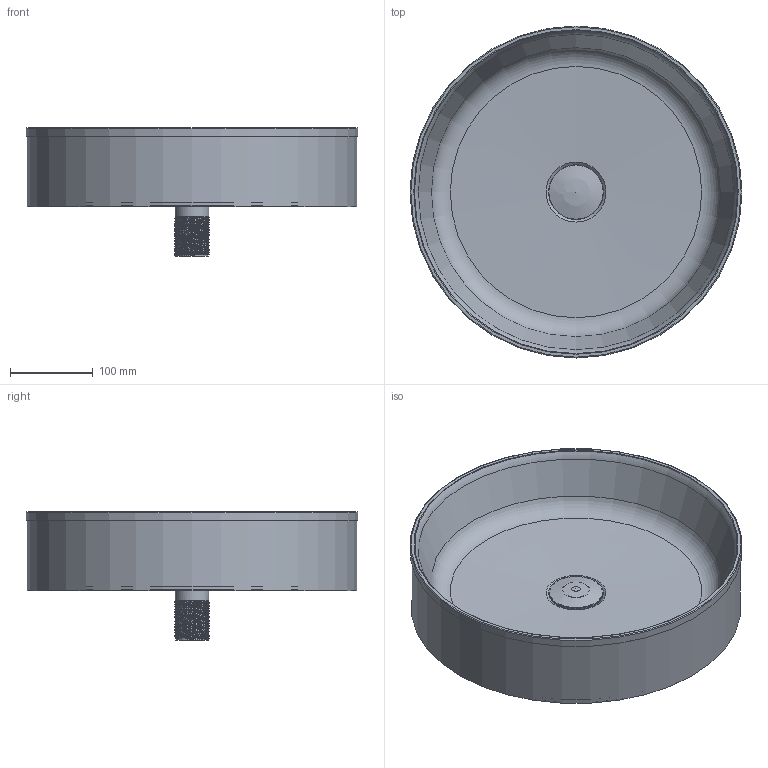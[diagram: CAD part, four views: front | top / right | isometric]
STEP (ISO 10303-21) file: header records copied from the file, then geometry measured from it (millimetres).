
FILE_DESCRIPTION(/* description */ (''),/* implementation_level */ '2;1');
FILE_NAME(/* name */ '400C.stp',/* time_stamp */ '2024-06-13T15:07:10+08:00',/* author */ (''),/* organization */ (''),/* preprocessor_version */ 'ST-DEVELOPER v16',/* originating_system */ 'SIEMENS PLM Software NX 10.0',/* authorisation */ '');
FILE_SCHEMA (('AP203_CONFIGURATION_CONTROLLED_3D_DESIGN_OF_MECHANICAL_PARTS_AND_ASSEMBLIES_MIM_LF { 1 0 10303 403 2 1 2}'));
Length unit declared in the file: millimetre
Products named in the file (1): Admi1AE48AC5090s
Bounding box: 400 x 400 x 154.37 mm (x, y, z)
Volume: 2127592.4 mm3; surface area: 795220.6 mm2
Topology: 8 solids, 8 shells, 127 faces, 294 edges, 189 vertices
Faces by surface type: cylinder 59, plane 37, cone 14, torus 7, sphere 4, bspline 4, revolution 2
Full cylindrical faces by diameter (mm): 7 x1, 8 x1, 10 x1, 11.5 x1, 12 x1, 14 x1, 16 x2, 31 x1, 33 x2, 35 x2, 36 x1, 37.5 x1, 38.5 x1, 39 x23, 40.5 x1, 45 x1, 60.5 x1, 63 x1, 66 x1, 87 x1, 394 x2, 397 x1, 400 x1
Entity records: 9734 total; most frequent: CARTESIAN_POINT 7655, DIRECTION 432, ORIENTED_EDGE 308, AXIS2_PLACEMENT_3D 193, EDGE_LOOP 174, EDGE_CURVE 154, FACE_BOUND 137, VERTEX_POINT 124
